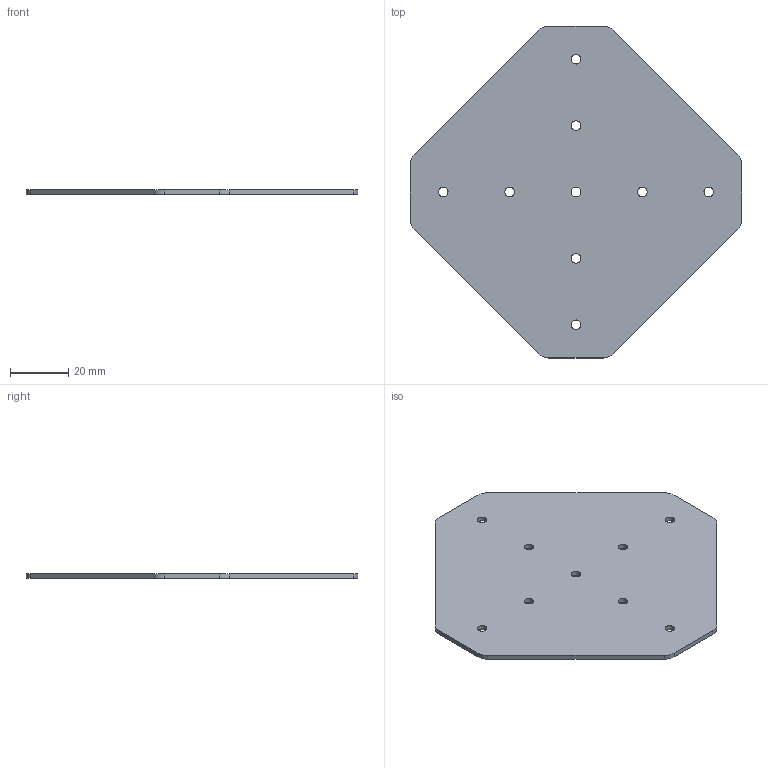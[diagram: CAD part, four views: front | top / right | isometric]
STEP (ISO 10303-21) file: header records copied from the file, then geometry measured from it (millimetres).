
FILE_DESCRIPTION (( 'STEP AP203' ), '1' );
FILE_NAME ('FDPGK-S_.75-CROSS.step', '2019-09-11T19:45:53', ( 'ydmin' ), ( '' ), 'SwSTEP 2.0', 'SolidWorks 2017', '' );
FILE_SCHEMA (( 'CONFIG_CONTROL_DESIGN' ));
Length unit declared in the file: inch
Products named in the file (1): FDPGK-S_.75-CROSS
Bounding box: 113.67 x 113.67 x 1.59 mm (x, y, z)
Volume: 13818.1 mm3; surface area: 18106.8 mm2
Topology: 1 solids, 1 shells, 36 faces, 102 edges, 68 vertices
Faces by surface type: cylinder 26, plane 10
Entity records: 1313 total; most frequent: DIRECTION 228, CARTESIAN_POINT 207, ORIENTED_EDGE 204, EDGE_CURVE 102, AXIS2_PLACEMENT_3D 89, VERTEX_POINT 68, EDGE_LOOP 54, CIRCLE 52
